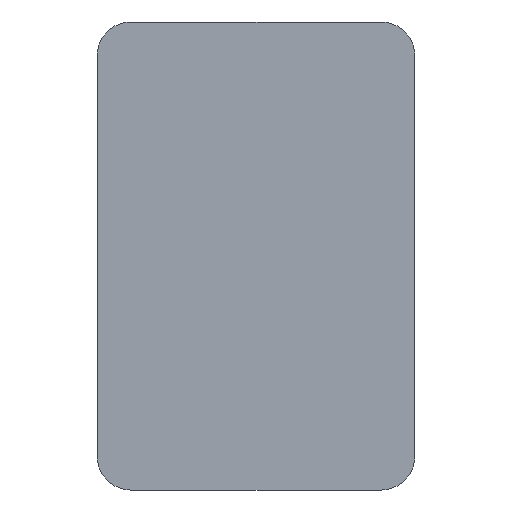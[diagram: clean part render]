
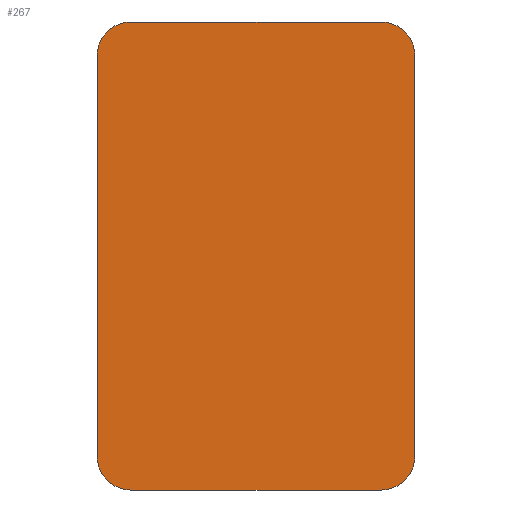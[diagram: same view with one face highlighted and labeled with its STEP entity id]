
A CAD part, front view. The second image highlights one B-rep face of the part: STEP entity #267.
In plain terms, the highlighted planar face has unit normal (0, -1, 0).
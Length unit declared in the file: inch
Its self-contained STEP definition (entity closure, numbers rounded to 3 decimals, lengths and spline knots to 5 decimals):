
#29=FACE_OUTER_BOUND('',#45,.T.);
#45=EDGE_LOOP('',(#219,#220,#221,#222,#223,#224,#225,#226));
#60=LINE('',#416,#88);
#63=LINE('',#424,#91);
#66=LINE('',#432,#94);
#69=LINE('',#440,#97);
#88=VECTOR('',#333,0.3937);
#91=VECTOR('',#342,0.3937);
#94=VECTOR('',#351,0.3937);
#97=VECTOR('',#360,0.3937);
#111=CIRCLE('',#294,0.125);
#112=CIRCLE('',#297,0.125);
#113=CIRCLE('',#300,0.125);
#114=CIRCLE('',#303,0.125);
#127=VERTEX_POINT('',#413);
#128=VERTEX_POINT('',#415);
#129=VERTEX_POINT('',#419);
#130=VERTEX_POINT('',#423);
#131=VERTEX_POINT('',#427);
#132=VERTEX_POINT('',#431);
#133=VERTEX_POINT('',#435);
#134=VERTEX_POINT('',#439);
#152=EDGE_CURVE('',#128,#127,#60,.T.);
#154=EDGE_CURVE('',#129,#128,#111,.T.);
#156=EDGE_CURVE('',#130,#129,#63,.T.);
#158=EDGE_CURVE('',#131,#130,#112,.T.);
#160=EDGE_CURVE('',#132,#131,#66,.T.);
#162=EDGE_CURVE('',#133,#132,#113,.T.);
#164=EDGE_CURVE('',#134,#133,#69,.T.);
#166=EDGE_CURVE('',#127,#134,#114,.T.);
#219=ORIENTED_EDGE('',*,*,#166,.T.);
#220=ORIENTED_EDGE('',*,*,#164,.T.);
#221=ORIENTED_EDGE('',*,*,#162,.T.);
#222=ORIENTED_EDGE('',*,*,#160,.T.);
#223=ORIENTED_EDGE('',*,*,#158,.T.);
#224=ORIENTED_EDGE('',*,*,#156,.T.);
#225=ORIENTED_EDGE('',*,*,#154,.T.);
#226=ORIENTED_EDGE('',*,*,#152,.T.);
#252=PLANE('',#304);
#267=ADVANCED_FACE('',(#29),#252,.T.);
#294=AXIS2_PLACEMENT_3D('',#420,#337,#338);
#297=AXIS2_PLACEMENT_3D('',#428,#346,#347);
#300=AXIS2_PLACEMENT_3D('',#436,#355,#356);
#303=AXIS2_PLACEMENT_3D('',#443,#364,#365);
#304=AXIS2_PLACEMENT_3D('',#444,#366,#367);
#333=DIRECTION('',(0.,0.,-1.));
#337=DIRECTION('center_axis',(0.,-1.,0.));
#338=DIRECTION('ref_axis',(0.,0.,1.));
#342=DIRECTION('',(-1.,0.,0.));
#346=DIRECTION('center_axis',(0.,-1.,0.));
#347=DIRECTION('ref_axis',(1.,0.,0.));
#351=DIRECTION('',(0.,0.,1.));
#355=DIRECTION('center_axis',(0.,-1.,0.));
#356=DIRECTION('ref_axis',(0.,0.,-1.));
#360=DIRECTION('',(1.,0.,0.));
#364=DIRECTION('center_axis',(0.,-1.,0.));
#365=DIRECTION('ref_axis',(-1.,0.,0.));
#366=DIRECTION('center_axis',(0.,-1.,0.));
#367=DIRECTION('ref_axis',(1.,0.,0.));
#413=CARTESIAN_POINT('',(-0.59375,-2.375,43.25));
#415=CARTESIAN_POINT('',(-0.59375,-2.375,44.75));
#416=CARTESIAN_POINT('',(-0.59375,-2.375,44.75));
#419=CARTESIAN_POINT('',(-0.46875,-2.375,44.875));
#420=CARTESIAN_POINT('Origin',(-0.46875,-2.375,44.75));
#423=CARTESIAN_POINT('',(0.46875,-2.375,44.875));
#424=CARTESIAN_POINT('',(0.46875,-2.375,44.875));
#427=CARTESIAN_POINT('',(0.59375,-2.375,44.75));
#428=CARTESIAN_POINT('Origin',(0.46875,-2.375,44.75));
#431=CARTESIAN_POINT('',(0.59375,-2.375,43.25));
#432=CARTESIAN_POINT('',(0.59375,-2.375,43.25));
#435=CARTESIAN_POINT('',(0.46875,-2.375,43.125));
#436=CARTESIAN_POINT('Origin',(0.46875,-2.375,43.25));
#439=CARTESIAN_POINT('',(-0.46875,-2.375,43.125));
#440=CARTESIAN_POINT('',(-0.46875,-2.375,43.125));
#443=CARTESIAN_POINT('Origin',(-0.46875,-2.375,43.25));
#444=CARTESIAN_POINT('Origin',(0.,-2.375,44.));
